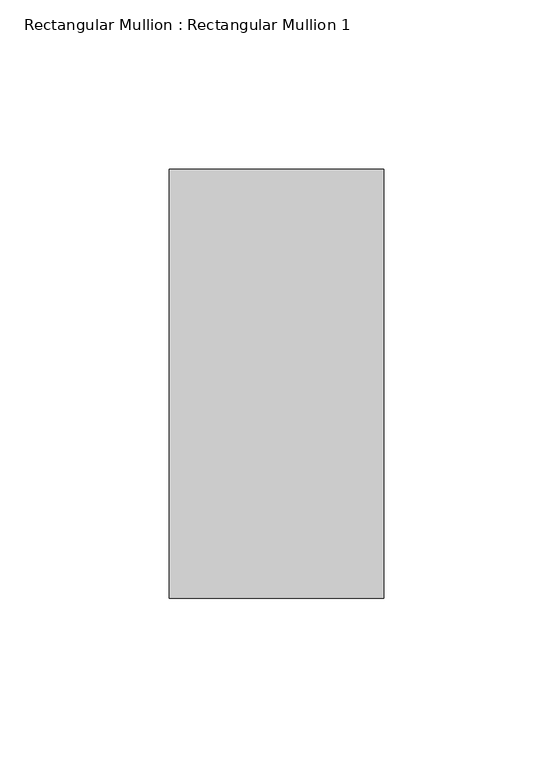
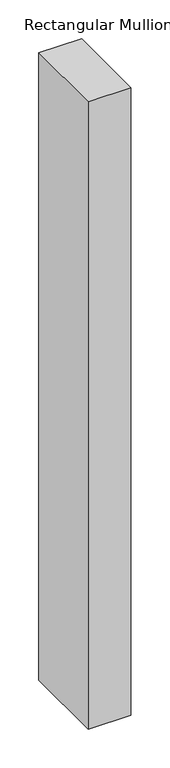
"""IFC4 building model written with IfcOpenShell, lengths in millimetres: member geometry, Rectangular Mullion : Rectangular Mullion 1."""

from ifc_helpers import new_model, si_unit, frame, origin, place, context, project, spatial, polyline, outline, extrude, source, transform, mapped, element, save


def rectangular_mullion_rectangular_mullion_1_437759a6(model_context):
    return source(origin(), model_context, "Body", "SweptSolid", [
        extrude(outline(polyline([(31.75, 63.5), (31.75, -63.5), (-31.75, -63.5), (-31.75, 63.5), (31.75, 63.5)])), frame((0.0, 0.0, -986.0642857), z_axis=(0.0, 0.0, 1.0), x_axis=(1.0, 0.0, 0.0)), (0.0, 0.0, 1.0), 986.0642857),
    ])


if __name__ == "__main__":
    model = new_model("IFC4")
    model_context = context("Model", 3, world=origin())
    ifc_project = project(units=[si_unit("LENGTHUNIT", "METRE", prefix="MILLI")], contexts=[model_context])
    site = spatial("IfcSite", under=ifc_project)
    building = spatial("IfcBuilding", under=site)
    placement = place(None, origin())
    rectangular_mullion_rectangular_mullion_1_shape = rectangular_mullion_rectangular_mullion_1_437759a6(model_context)
    element("IfcMember", 1, ObjectType="Rectangular Mullion : Rectangular Mullion 1", at=placement, inside=building, context=model_context, shape_type="MappedRepresentation", body=[
        mapped(rectangular_mullion_rectangular_mullion_1_shape, transform((0.0, 0.0, 0.0), x_axis=(1.0, 0.0, 0.0), y_axis=(0.0, 1.0, 0.0), z_axis=(0.0, 0.0, 1.0))),
    ])
    save(model, "model.ifc")
